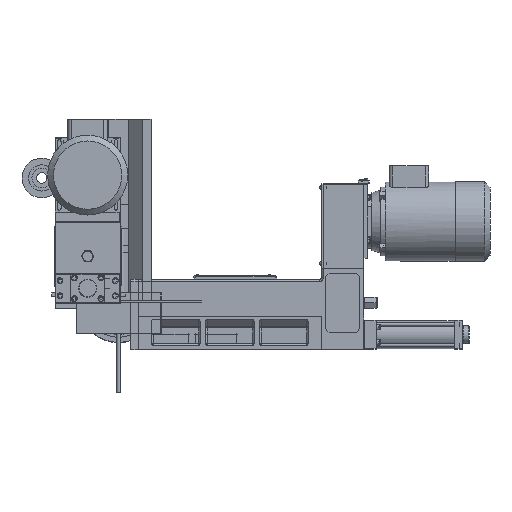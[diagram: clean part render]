
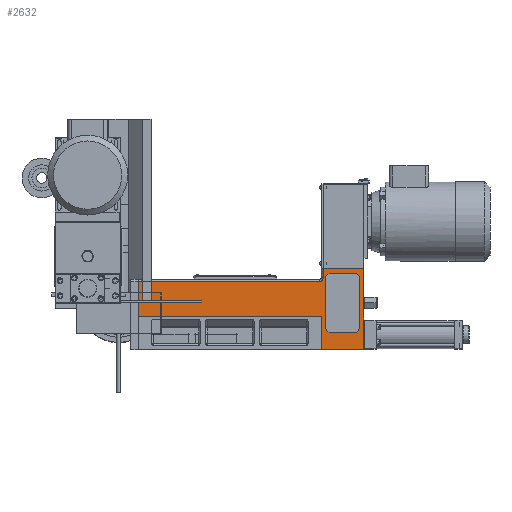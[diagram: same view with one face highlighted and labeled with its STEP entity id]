
A CAD part, left-side view. The second image highlights one B-rep face of the part: STEP entity #2632.
In plain terms, the highlighted planar face has unit normal (-1, 0, 0) as drawn and (0, 1, 0) by its records, which use the part's own axes.
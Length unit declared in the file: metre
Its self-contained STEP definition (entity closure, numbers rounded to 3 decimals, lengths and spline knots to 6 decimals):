
#2632 = ADVANCED_FACE( '', ( #3965 ), #3966, .T. );
#3965 = FACE_OUTER_BOUND( '', #6696, .T. );
#3966 = PLANE( '', #6697 );
#6696 = EDGE_LOOP( '', ( #9838, #9839, #9840, #9841, #9842, #9843, #9844, #9845, #9846 ) );
#6697 = AXIS2_PLACEMENT_3D( '', #9847, #9848, #9849 );
#9838 = ORIENTED_EDGE( '', *, *, #16499, .T. );
#9839 = ORIENTED_EDGE( '', *, *, #16500, .T. );
#9840 = ORIENTED_EDGE( '', *, *, #16501, .T. );
#9841 = ORIENTED_EDGE( '', *, *, #16502, .T. );
#9842 = ORIENTED_EDGE( '', *, *, #16498, .F. );
#9843 = ORIENTED_EDGE( '', *, *, #16503, .F. );
#9844 = ORIENTED_EDGE( '', *, *, #16504, .F. );
#9845 = ORIENTED_EDGE( '', *, *, #16481, .F. );
#9846 = ORIENTED_EDGE( '', *, *, #16505, .T. );
#9847 = CARTESIAN_POINT( '', ( -0.6225, 0.176111, 0. ) );
#9848 = DIRECTION( '', ( 0., 1., 0. ) );
#9849 = DIRECTION( '', ( 0., 0., 1. ) );
#16481 = EDGE_CURVE( '', #18754, #18756, #18757, .T. );
#16498 = EDGE_CURVE( '', #18788, #18783, #18790, .T. );
#16499 = EDGE_CURVE( '', #18791, #18792, #18793, .T. );
#16500 = EDGE_CURVE( '', #18792, #18794, #18795, .T. );
#16501 = EDGE_CURVE( '', #18794, #18796, #18797, .T. );
#16502 = EDGE_CURVE( '', #18796, #18783, #18798, .T. );
#16503 = EDGE_CURVE( '', #18799, #18788, #18800, .T. );
#16504 = EDGE_CURVE( '', #18756, #18799, #18801, .T. );
#16505 = EDGE_CURVE( '', #18754, #18791, #18802, .T. );
#18754 = VERTEX_POINT( '', #22568 );
#18756 = VERTEX_POINT( '', #22571 );
#18757 = LINE( '', #22572, #22573 );
#18783 = VERTEX_POINT( '', #22608 );
#18788 = VERTEX_POINT( '', #22615 );
#18790 = LINE( '', #22618, #22619 );
#18791 = VERTEX_POINT( '', #22620 );
#18792 = VERTEX_POINT( '', #22621 );
#18793 = LINE( '', #22622, #22623 );
#18794 = VERTEX_POINT( '', #22624 );
#18795 = LINE( '', #22625, #22626 );
#18796 = VERTEX_POINT( '', #22627 );
#18797 = LINE( '', #22628, #22629 );
#18798 = LINE( '', #22630, #22631 );
#18799 = VERTEX_POINT( '', #22632 );
#18800 = CIRCLE( '', #22633, 0.011 );
#18801 = LINE( '', #22634, #22635 );
#18802 = LINE( '', #22636, #22637 );
#22568 = CARTESIAN_POINT( '', ( 0.005, 0.176111, 0.091 ) );
#22571 = CARTESIAN_POINT( '', ( 0.005, 0.176111, 0.188 ) );
#22572 = CARTESIAN_POINT( '', ( 0.005, 0.176111, 0. ) );
#22573 = VECTOR( '', #28044, 1. );
#22608 = CARTESIAN_POINT( '', ( -0.5095, 0.176111, 0.224 ) );
#22615 = CARTESIAN_POINT( '', ( -0.5095, 0.176111, 0.199 ) );
#22618 = CARTESIAN_POINT( '', ( -0.5095, 0.176111, 0.112 ) );
#22619 = VECTOR( '', #28069, 1. );
#22620 = CARTESIAN_POINT( '', ( -0.505, 0.176111, 0.091 ) );
#22621 = CARTESIAN_POINT( '', ( -0.505, 0.176111, 0. ) );
#22622 = CARTESIAN_POINT( '', ( -0.505, 0.176111, 0. ) );
#22623 = VECTOR( '', #28070, 1. );
#22624 = CARTESIAN_POINT( '', ( -0.6225, 0.176111, 0. ) );
#22625 = CARTESIAN_POINT( '', ( 0.005, 0.176111, 0. ) );
#22626 = VECTOR( '', #28071, 1. );
#22627 = CARTESIAN_POINT( '', ( -0.6225, 0.176111, 0.224 ) );
#22628 = CARTESIAN_POINT( '', ( -0.6225, 0.176111, 0. ) );
#22629 = VECTOR( '', #28072, 1. );
#22630 = CARTESIAN_POINT( '', ( 0.005, 0.176111, 0.224 ) );
#22631 = VECTOR( '', #28073, 1. );
#22632 = CARTESIAN_POINT( '', ( -0.4985, 0.176111, 0.188 ) );
#22633 = AXIS2_PLACEMENT_3D( '', #28074, #28075, #28076 );
#22634 = CARTESIAN_POINT( '', ( -0.435875, 0.176111, 0.188 ) );
#22635 = VECTOR( '', #28077, 1. );
#22636 = CARTESIAN_POINT( '', ( -0.56375, 0.176111, 0.091 ) );
#22637 = VECTOR( '', #28078, 1. );
#28044 = DIRECTION( '', ( 0., 0., 1. ) );
#28069 = DIRECTION( '', ( 0., 0., 1. ) );
#28070 = DIRECTION( '', ( 0., 0., -1. ) );
#28071 = DIRECTION( '', ( -1., 0., 0. ) );
#28072 = DIRECTION( '', ( 0., 0., 1. ) );
#28073 = DIRECTION( '', ( 1., 0., 0. ) );
#28074 = CARTESIAN_POINT( '', ( -0.4985, 0.176111, 0.199 ) );
#28075 = DIRECTION( '', ( 0., 1., 0. ) );
#28076 = DIRECTION( '', ( -0.707, 0., -0.707 ) );
#28077 = DIRECTION( '', ( -1., 0., 0. ) );
#28078 = DIRECTION( '', ( -1., 0., 0. ) );
